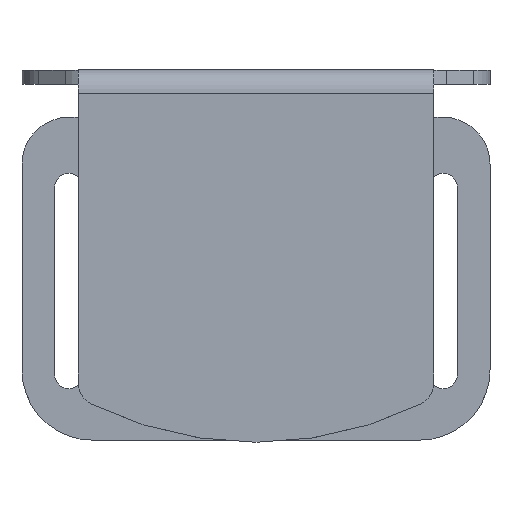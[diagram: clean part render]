
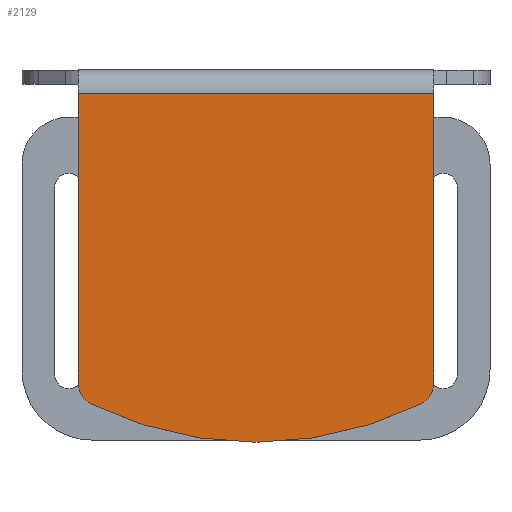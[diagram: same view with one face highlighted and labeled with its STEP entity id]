
A CAD part, top view. The second image highlights one B-rep face of the part: STEP entity #2129.
In plain terms, the highlighted planar face has unit normal (0, 0, 1).
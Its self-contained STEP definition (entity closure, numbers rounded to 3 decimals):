
#510=DIRECTION('',(0.,1.,0.));
#511=VECTOR('',#510,61.951);
#512=CARTESIAN_POINT('',(-38.,-63.951,69.));
#513=LINE('',#512,#511);
#523=DIRECTION('',(1.,0.,0.));
#524=VECTOR('',#523,76.);
#525=CARTESIAN_POINT('',(-38.,-2.,69.));
#526=LINE('',#525,#524);
#527=CARTESIAN_POINT('',(0.,3.399,69.));
#528=DIRECTION('',(0.,0.,1.));
#529=DIRECTION('',(-0.44,-0.898,0.));
#530=AXIS2_PLACEMENT_3D('',#527,#528,#529);
#532=CARTESIAN_POINT('',(-33.,-63.951,69.));
#533=DIRECTION('',(0.,0.,1.));
#534=DIRECTION('',(-1.,0.,0.));
#535=AXIS2_PLACEMENT_3D('',#532,#533,#534);
#537=DIRECTION('',(0.,1.,0.));
#538=VECTOR('',#537,61.951);
#539=CARTESIAN_POINT('',(38.,-63.951,69.));
#540=LINE('',#539,#538);
#541=CARTESIAN_POINT('',(33.,-63.951,69.));
#542=DIRECTION('',(0.,0.,1.));
#543=DIRECTION('',(0.44,-0.898,0.));
#544=AXIS2_PLACEMENT_3D('',#541,#542,#543);
#546=CARTESIAN_POINT('',(0.,3.399,69.));
#547=DIRECTION('',(0.,0.,1.));
#548=DIRECTION('',(0.,-1.,0.));
#549=AXIS2_PLACEMENT_3D('',#546,#547,#548);
#1145=CARTESIAN_POINT('',(-38.,-63.951,69.));
#1146=CARTESIAN_POINT('',(-38.,-2.,69.));
#1147=VERTEX_POINT('',#1145);
#1148=VERTEX_POINT('',#1146);
#1155=CARTESIAN_POINT('',(-35.2,-68.441,69.));
#1156=VERTEX_POINT('',#1155);
#1157=CARTESIAN_POINT('',(0.,-76.601,69.));
#1158=VERTEX_POINT('',#1157);
#1159=CARTESIAN_POINT('',(35.2,-68.441,69.));
#1160=VERTEX_POINT('',#1159);
#1161=CARTESIAN_POINT('',(38.,-63.951,69.));
#1162=VERTEX_POINT('',#1161);
#1163=CARTESIAN_POINT('',(38.,-2.,69.));
#1164=VERTEX_POINT('',#1163);
#2111=CARTESIAN_POINT('',(-38.,3.,69.));
#2112=DIRECTION('',(0.,0.,1.));
#2113=DIRECTION('',(-1.,0.,0.));
#2114=AXIS2_PLACEMENT_3D('',#2111,#2112,#2113);
#2115=PLANE('',#2114);
#2117=ORIENTED_EDGE('',*,*,#2116,.F.);
#2119=ORIENTED_EDGE('',*,*,#2118,.F.);
#2120=ORIENTED_EDGE('',*,*,#2075,.T.);
#2121=ORIENTED_EDGE('',*,*,#2105,.T.);
#2122=ORIENTED_EDGE('',*,*,#2043,.F.);
#2124=ORIENTED_EDGE('',*,*,#2123,.F.);
#2126=ORIENTED_EDGE('',*,*,#2125,.F.);
#2127=EDGE_LOOP('',(#2117,#2119,#2120,#2121,#2122,#2124,#2126));
#2128=FACE_OUTER_BOUND('',#2127,.F.);
#2129=ADVANCED_FACE('',(#2128),#2115,.T.);
#531=CIRCLE('',#530,80.);
#536=CIRCLE('',#535,5.);
#545=CIRCLE('',#544,5.);
#550=CIRCLE('',#549,80.);
#2043=EDGE_CURVE('',#1162,#1164,#540,.T.);
#2075=EDGE_CURVE('',#1147,#1148,#513,.T.);
#2105=EDGE_CURVE('',#1148,#1164,#526,.T.);
#2116=EDGE_CURVE('',#1156,#1158,#531,.T.);
#2118=EDGE_CURVE('',#1147,#1156,#536,.T.);
#2123=EDGE_CURVE('',#1160,#1162,#545,.T.);
#2125=EDGE_CURVE('',#1158,#1160,#550,.T.);
